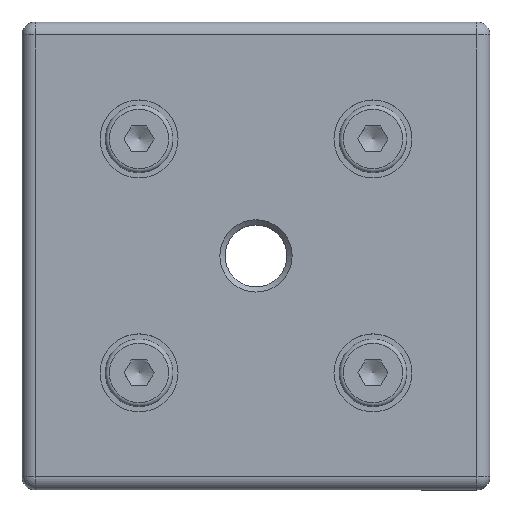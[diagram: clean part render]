
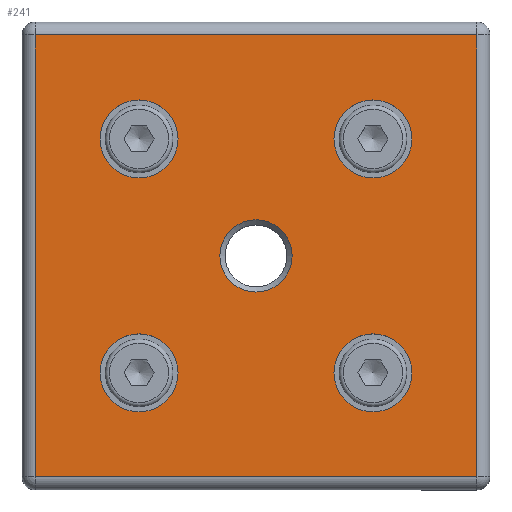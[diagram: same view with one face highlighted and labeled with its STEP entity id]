
A CAD part, top view. The second image highlights one B-rep face of the part: STEP entity #241.
In plain terms, the highlighted planar face has unit normal (0, 0, 1).
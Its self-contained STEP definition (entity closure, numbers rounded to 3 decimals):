
#123=CARTESIAN_POINT('',(-6.953,0.,15.0));
#124=VERTEX_POINT('',#123);
#125=CARTESIAN_POINT('',(0.0,0.0,15.0));
#126=DIRECTION('',(0.0,0.0,1.0));
#127=DIRECTION('',(1.0,0.0,0.0));
#128=AXIS2_PLACEMENT_3D('',#125,#126,#127);
#129=CIRCLE('',#128,6.953);
#130=EDGE_CURVE('',#124,#124,#129,.T.);
#155=CARTESIAN_POINT('',(0.,0.,15.0));
#156=DIRECTION('',(0.0,0.0,1.0));
#157=DIRECTION('',(1.0,0.0,0.0));
#158=AXIS2_PLACEMENT_3D('',#155,#156,#157);
#159=PLANE('',#158);
#160=CARTESIAN_POINT('',(-42.5,42.5,15.0));
#161=VERTEX_POINT('',#160);
#162=CARTESIAN_POINT('',(42.5,42.5,15.0));
#163=VERTEX_POINT('',#162);
#164=CARTESIAN_POINT('',(-42.5,42.5,15.0));
#165=DIRECTION('',(1.0,0.0,0.0));
#166=VECTOR('',#165,85.0);
#167=LINE('',#164,#166);
#168=EDGE_CURVE('',#161,#163,#167,.T.);
#169=ORIENTED_EDGE('',*,*,#168,.F.);
#170=CARTESIAN_POINT('',(-42.5,-42.5,15.0));
#171=VERTEX_POINT('',#170);
#172=CARTESIAN_POINT('',(-42.5,-42.5,15.0));
#173=DIRECTION('',(0.0,1.0,0.0));
#174=VECTOR('',#173,85.0);
#175=LINE('',#172,#174);
#176=EDGE_CURVE('',#171,#161,#175,.T.);
#177=ORIENTED_EDGE('',*,*,#176,.F.);
#178=CARTESIAN_POINT('',(42.5,-42.5,15.0));
#179=VERTEX_POINT('',#178);
#180=CARTESIAN_POINT('',(42.5,-42.5,15.0));
#181=DIRECTION('',(-1.0,0.0,0.0));
#182=VECTOR('',#181,85.);
#183=LINE('',#180,#182);
#184=EDGE_CURVE('',#179,#171,#183,.T.);
#185=ORIENTED_EDGE('',*,*,#184,.F.);
#186=CARTESIAN_POINT('',(42.5,42.5,15.0));
#187=DIRECTION('',(0.0,-1.0,0.0));
#188=VECTOR('',#187,85.0);
#189=LINE('',#186,#188);
#190=EDGE_CURVE('',#163,#179,#189,.T.);
#191=ORIENTED_EDGE('',*,*,#190,.F.);
#192=EDGE_LOOP('',(#169,#177,#185,#191));
#193=FACE_OUTER_BOUND('',#192,.T.);
#194=CARTESIAN_POINT('',(30.,22.5,15.0));
#195=VERTEX_POINT('',#194);
#196=CARTESIAN_POINT('',(22.5,22.5,15.0));
#197=DIRECTION('',(0.0,0.0,-1.0));
#198=DIRECTION('',(1.0,0.0,0.0));
#199=AXIS2_PLACEMENT_3D('',#196,#197,#198);
#200=CIRCLE('',#199,7.5);
#201=EDGE_CURVE('',#195,#195,#200,.T.);
#202=ORIENTED_EDGE('',*,*,#201,.T.);
#203=EDGE_LOOP('',(#202));
#204=FACE_BOUND('',#203,.T.);
#205=CARTESIAN_POINT('',(-15.,22.5,15.0));
#206=VERTEX_POINT('',#205);
#207=CARTESIAN_POINT('',(-22.5,22.5,15.0));
#208=DIRECTION('',(0.0,0.0,-1.0));
#209=DIRECTION('',(1.0,0.0,0.0));
#210=AXIS2_PLACEMENT_3D('',#207,#208,#209);
#211=CIRCLE('',#210,7.5);
#212=EDGE_CURVE('',#206,#206,#211,.T.);
#213=ORIENTED_EDGE('',*,*,#212,.T.);
#214=EDGE_LOOP('',(#213));
#215=FACE_BOUND('',#214,.T.);
#216=CARTESIAN_POINT('',(-15.,-22.5,15.0));
#217=VERTEX_POINT('',#216);
#218=CARTESIAN_POINT('',(-22.5,-22.5,15.0));
#219=DIRECTION('',(0.0,0.0,-1.0));
#220=DIRECTION('',(1.0,0.0,0.0));
#221=AXIS2_PLACEMENT_3D('',#218,#219,#220);
#222=CIRCLE('',#221,7.5);
#223=EDGE_CURVE('',#217,#217,#222,.T.);
#224=ORIENTED_EDGE('',*,*,#223,.T.);
#225=EDGE_LOOP('',(#224));
#226=FACE_BOUND('',#225,.T.);
#227=CARTESIAN_POINT('',(30.,-22.5,15.0));
#228=VERTEX_POINT('',#227);
#229=CARTESIAN_POINT('',(22.5,-22.5,15.0));
#230=DIRECTION('',(0.0,0.0,-1.0));
#231=DIRECTION('',(1.0,0.0,0.0));
#232=AXIS2_PLACEMENT_3D('',#229,#230,#231);
#233=CIRCLE('',#232,7.5);
#234=EDGE_CURVE('',#228,#228,#233,.T.);
#235=ORIENTED_EDGE('',*,*,#234,.T.);
#236=EDGE_LOOP('',(#235));
#237=FACE_BOUND('',#236,.T.);
#238=ORIENTED_EDGE('',*,*,#130,.F.);
#239=EDGE_LOOP('',(#238));
#240=FACE_BOUND('',#239,.T.);
#241=ADVANCED_FACE('',(#193,#204,#215,#226,#237,#240),#159,.T.);
